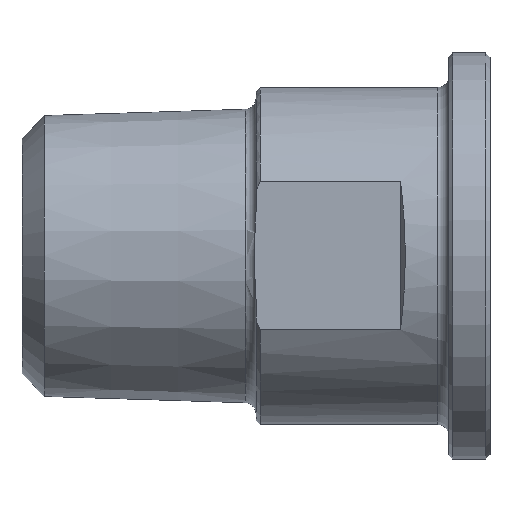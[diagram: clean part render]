
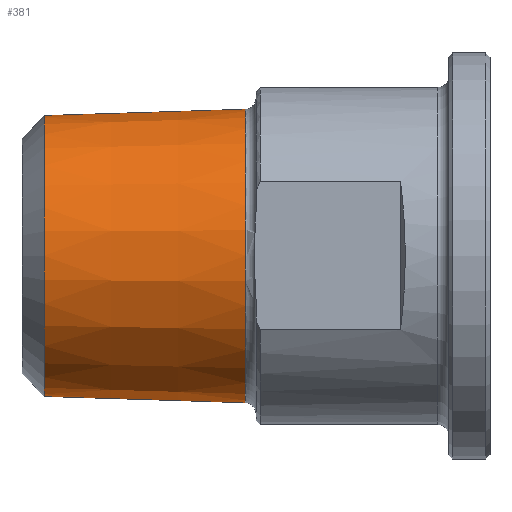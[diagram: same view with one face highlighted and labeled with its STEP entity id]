
A CAD part, top view. The second image highlights one B-rep face of the part: STEP entity #381.
In plain terms, the highlighted conical face has half-angle 1.8 degrees and reference radius 10.417 mm.
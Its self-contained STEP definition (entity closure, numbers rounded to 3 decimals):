
#30=CIRCLE('',#431,10.66);
#33=CIRCLE('',#434,10.66);
#35=CIRCLE('',#438,10.2);
#36=CIRCLE('',#439,10.2);
#53=CONICAL_SURFACE('',#437,10.417,0.031);
#76=FACE_OUTER_BOUND('',#98,.T.);
#98=EDGE_LOOP('',(#305,#306,#307,#308,#309,#310));
#125=LINE('',#687,#144);
#144=VECTOR('',#528,10.417);
#174=VERTEX_POINT('',#677);
#175=VERTEX_POINT('',#678);
#176=VERTEX_POINT('',#686);
#177=VERTEX_POINT('',#688);
#219=EDGE_CURVE('',#174,#175,#30,.T.);
#222=EDGE_CURVE('',#175,#174,#33,.T.);
#224=EDGE_CURVE('',#174,#176,#125,.T.);
#225=EDGE_CURVE('',#177,#176,#35,.T.);
#226=EDGE_CURVE('',#176,#177,#36,.T.);
#305=ORIENTED_EDGE('',*,*,#219,.F.);
#306=ORIENTED_EDGE('',*,*,#224,.T.);
#307=ORIENTED_EDGE('',*,*,#225,.F.);
#308=ORIENTED_EDGE('',*,*,#226,.F.);
#309=ORIENTED_EDGE('',*,*,#224,.F.);
#310=ORIENTED_EDGE('',*,*,#222,.F.);
#381=ADVANCED_FACE('',(#76),#53,.T.);
#431=AXIS2_PLACEMENT_3D('',#679,#514,#515);
#434=AXIS2_PLACEMENT_3D('',#682,#520,#521);
#437=AXIS2_PLACEMENT_3D('',#685,#526,#527);
#438=AXIS2_PLACEMENT_3D('',#689,#529,#530);
#439=AXIS2_PLACEMENT_3D('',#690,#531,#532);
#514=DIRECTION('center_axis',(1.,0.,0.));
#515=DIRECTION('ref_axis',(0.,-1.,0.));
#520=DIRECTION('center_axis',(1.,0.,0.));
#521=DIRECTION('ref_axis',(0.,-1.,0.));
#526=DIRECTION('center_axis',(1.,0.,0.));
#527=DIRECTION('ref_axis',(0.,1.,0.));
#528=DIRECTION('',(-1.,0.031,0.));
#529=DIRECTION('center_axis',(-1.,0.,0.));
#530=DIRECTION('ref_axis',(0.,-1.,0.));
#531=DIRECTION('center_axis',(-1.,0.,0.));
#532=DIRECTION('ref_axis',(0.,-1.,0.));
#677=CARTESIAN_POINT('',(-17.775,-10.66,0.));
#678=CARTESIAN_POINT('',(-17.775,0.,10.66));
#679=CARTESIAN_POINT('Origin',(-17.775,0.,0.));
#682=CARTESIAN_POINT('Origin',(-17.775,0.,0.));
#685=CARTESIAN_POINT('Origin',(-25.5,0.,0.));
#686=CARTESIAN_POINT('',(-32.401,-10.2,0.));
#687=CARTESIAN_POINT('',(-25.5,-10.417,0.));
#688=CARTESIAN_POINT('',(-32.401,10.2,0.));
#689=CARTESIAN_POINT('Origin',(-32.401,0.,0.));
#690=CARTESIAN_POINT('Origin',(-32.401,0.,0.));
